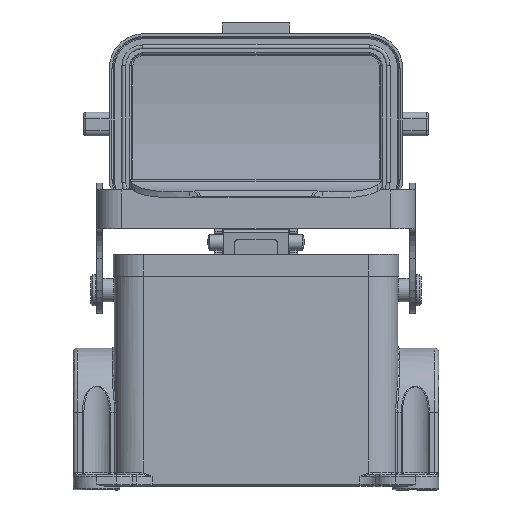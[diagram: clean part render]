
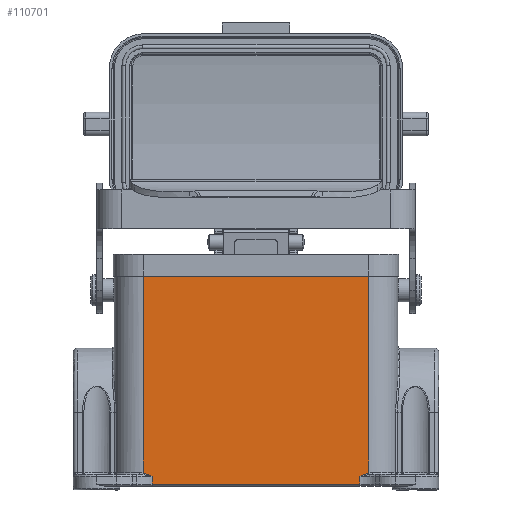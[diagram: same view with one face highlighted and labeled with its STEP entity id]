
A CAD part, front view. The second image highlights one B-rep face of the part: STEP entity #110701.
In plain terms, the highlighted planar face has unit normal (0, -1, 0).
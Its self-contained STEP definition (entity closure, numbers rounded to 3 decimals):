
#4212 = CARTESIAN_POINT ( 'NONE',  ( 26.737, -21.5, -29.3 ) ) ;
#4214 = CARTESIAN_POINT ( 'NONE',  ( -27.895, -21.5, -28.803 ) ) ;
#5683 = EDGE_CURVE ( 'NONE', #103085, #130829, #11401, .T. ) ;
#7994 = CARTESIAN_POINT ( 'NONE',  ( -28.465, -21.5, -28.595 ) ) ;
#8922 = CARTESIAN_POINT ( 'NONE',  ( -27.863, -21.5, -28.816 ) ) ;
#9386 = VERTEX_POINT ( 'NONE', #50116 ) ;
#9691 = DIRECTION ( 'NONE',  ( 0., 0., -1. ) ) ;
#11401 = B_SPLINE_CURVE_WITH_KNOTS ( 'NONE', 3,
 ( #4212, #100313, #15396, #26104, #15862, #120952, #100775, #56960, #133036, #14051, #48060, #88662, #133983, #82083, #112459, #38739, #38260, #80222, #103091 ),
 .UNSPECIFIED., .F., .F.,
 ( 4, 1, 1, 1, 1, 1, 2, 2, 1, 1, 2, 2, 4 ),
 ( 0., 0.25, 0.375, 0.438, 0.469, 0.484, 0.492, 0.5, 0.625, 0.688, 0.719, 0.75, 1. ),
 .UNSPECIFIED. ) ;
#12736 = EDGE_CURVE ( 'NONE', #51147, #103085, #67158, .T. ) ;
#14051 = CARTESIAN_POINT ( 'NONE',  ( 27.843, -21.5, -28.823 ) ) ;
#15396 = CARTESIAN_POINT ( 'NONE',  ( 27.255, -21.5, -29.068 ) ) ;
#15862 = CARTESIAN_POINT ( 'NONE',  ( 27.711, -21.5, -28.876 ) ) ;
#16578 = DIRECTION ( 'NONE',  ( 1., 0., 0. ) ) ;
#18606 = EDGE_CURVE ( 'NONE', #64068, #48528, #137124, .T. ) ;
#18718 = CARTESIAN_POINT ( 'NONE',  ( -28.027, -21.5, -28.751 ) ) ;
#19171 = CARTESIAN_POINT ( 'NONE',  ( -26.909, -21.5, -29.221 ) ) ;
#20081 = CARTESIAN_POINT ( 'NONE',  ( -27.643, -21.5, -28.904 ) ) ;
#20556 = CARTESIAN_POINT ( 'NONE',  ( -26.737, -21.5, -29.3 ) ) ;
#22336 = CARTESIAN_POINT ( 'NONE',  ( -36.5, -21.5, -31.8 ) ) ;
#23871 = CARTESIAN_POINT ( 'NONE',  ( 26.737, -21.5, -29.3 ) ) ;
#26104 = CARTESIAN_POINT ( 'NONE',  ( 27.566, -21.5, -28.936 ) ) ;
#28251 = ORIENTED_EDGE ( 'NONE', *, *, #18606, .T. ) ;
#31619 = CARTESIAN_POINT ( 'NONE',  ( 29., -21.5, 22.2 ) ) ;
#32129 = DIRECTION ( 'NONE',  ( 0., -1., 0. ) ) ;
#32577 = ORIENTED_EDGE ( 'NONE', *, *, #76624, .T. ) ;
#38260 = CARTESIAN_POINT ( 'NONE',  ( 28.609, -21.5, -28.547 ) ) ;
#38739 = CARTESIAN_POINT ( 'NONE',  ( 28.395, -21.5, -28.619 ) ) ;
#41080 = CARTESIAN_POINT ( 'NONE',  ( -27.344, -21.5, -29.031 ) ) ;
#41950 = EDGE_CURVE ( 'NONE', #102107, #100077, #71870, .T. ) ;
#44319 = CARTESIAN_POINT ( 'NONE',  ( -26.737, -21.5, -29.3 ) ) ;
#46243 = AXIS2_PLACEMENT_3D ( 'NONE', #22336, #32129, #75490 ) ;
#47145 = CARTESIAN_POINT ( 'NONE',  ( 29., -21.5, -28.441 ) ) ;
#48060 = CARTESIAN_POINT ( 'NONE',  ( 27.951, -21.5, -28.78 ) ) ;
#48528 = VERTEX_POINT ( 'NONE', #88340 ) ;
#50116 = CARTESIAN_POINT ( 'NONE',  ( -26.737, -21.5, -31.3 ) ) ;
#50465 = CARTESIAN_POINT ( 'NONE',  ( -28.513, -21.5, -28.58 ) ) ;
#51147 = VERTEX_POINT ( 'NONE', #75016 ) ;
#51376 = CARTESIAN_POINT ( 'NONE',  ( -27.093, -21.5, -29.139 ) ) ;
#51683 = CARTESIAN_POINT ( 'NONE',  ( -26.737, -21.5, -31.8 ) ) ;
#56960 = CARTESIAN_POINT ( 'NONE',  ( 27.83, -21.5, -28.828 ) ) ;
#57399 = CARTESIAN_POINT ( 'NONE',  ( -28.752, -21.5, -28.507 ) ) ;
#64068 = VERTEX_POINT ( 'NONE', #31619 ) ;
#67158 = LINE ( 'NONE', #103781, #103990 ) ;
#68095 = CARTESIAN_POINT ( 'NONE',  ( -28.196, -21.5, -28.687 ) ) ;
#70314 = VECTOR ( 'NONE', #78228, 1000. ) ;
#71870 = B_SPLINE_CURVE_WITH_KNOTS ( 'NONE', 3,
 ( #79754, #92871, #57399, #103631, #50465, #7994, #132131, #82608, #68095, #18718, #93329, #4214, #78843, #8922, #105004, #93802, #20081, #116232, #127000, #41080, #114852, #74172, #51376, #19171, #20556 ),
 .UNSPECIFIED., .F., .F.,
 ( 4, 1, 1, 2, 2, 1, 1, 1, 1, 2, 2, 1, 1, 1, 2, 2, 4 ),
 ( 0., 0.125, 0.187, 0.219, 0.25, 0.375, 0.437, 0.469, 0.484, 0.492, 0.5, 0.625, 0.687, 0.719, 0.734, 0.75, 1. ),
 .UNSPECIFIED. ) ;
#74172 = CARTESIAN_POINT ( 'NONE',  ( -27.303, -21.5, -29.049 ) ) ;
#74196 = ORIENTED_EDGE ( 'NONE', *, *, #106012, .T. ) ;
#75016 = CARTESIAN_POINT ( 'NONE',  ( 26.737, -21.5, -31.3 ) ) ;
#75490 = DIRECTION ( 'NONE',  ( 1., 0., 0. ) ) ;
#76454 = DIRECTION ( 'NONE',  ( 0., 0., 1. ) ) ;
#76624 = EDGE_CURVE ( 'NONE', #9386, #51147, #85311, .T. ) ;
#76894 = CARTESIAN_POINT ( 'NONE',  ( -29., -21.5, -31.8 ) ) ;
#77420 = ORIENTED_EDGE ( 'NONE', *, *, #41950, .T. ) ;
#78228 = DIRECTION ( 'NONE',  ( 0., 0., -1. ) ) ;
#78517 = ORIENTED_EDGE ( 'NONE', *, *, #12736, .T. ) ;
#78612 = LINE ( 'NONE', #76894, #70314 ) ;
#78843 = CARTESIAN_POINT ( 'NONE',  ( -27.875, -21.5, -28.81 ) ) ;
#79754 = CARTESIAN_POINT ( 'NONE',  ( -29., -21.5, -28.441 ) ) ;
#80222 = CARTESIAN_POINT ( 'NONE',  ( 28.803, -21.5, -28.49 ) ) ;
#80242 = VECTOR ( 'NONE', #94318, 1000. ) ;
#80489 = CARTESIAN_POINT ( 'NONE',  ( -36.5, -21.5, -31.3 ) ) ;
#81986 = ORIENTED_EDGE ( 'NONE', *, *, #137580, .T. ) ;
#82083 = CARTESIAN_POINT ( 'NONE',  ( 28.329, -21.5, -28.641 ) ) ;
#82608 = CARTESIAN_POINT ( 'NONE',  ( -28.332, -21.5, -28.64 ) ) ;
#85311 = LINE ( 'NONE', #80489, #90196 ) ;
#88340 = CARTESIAN_POINT ( 'NONE',  ( -29., -21.5, 22.2 ) ) ;
#88662 = CARTESIAN_POINT ( 'NONE',  ( 28.098, -21.5, -28.724 ) ) ;
#90196 = VECTOR ( 'NONE', #16578, 1000. ) ;
#92871 = CARTESIAN_POINT ( 'NONE',  ( -28.9, -21.5, -28.466 ) ) ;
#93329 = CARTESIAN_POINT ( 'NONE',  ( -27.939, -21.5, -28.785 ) ) ;
#93802 = CARTESIAN_POINT ( 'NONE',  ( -27.772, -21.5, -28.852 ) ) ;
#94318 = DIRECTION ( 'NONE',  ( -1., 0., 0. ) ) ;
#95626 = CARTESIAN_POINT ( 'NONE',  ( 29., -21.5, -31.8 ) ) ;
#96888 = EDGE_LOOP ( 'NONE', ( #81986, #28251, #74196, #77420, #122587, #32577, #78517, #112162 ) ) ;
#100077 = VERTEX_POINT ( 'NONE', #44319 ) ;
#100313 = CARTESIAN_POINT ( 'NONE',  ( 26.953, -21.5, -29.202 ) ) ;
#100775 = CARTESIAN_POINT ( 'NONE',  ( 27.816, -21.5, -28.834 ) ) ;
#102107 = VERTEX_POINT ( 'NONE', #134603 ) ;
#103085 = VERTEX_POINT ( 'NONE', #23871 ) ;
#103091 = CARTESIAN_POINT ( 'NONE',  ( 29., -21.5, -28.441 ) ) ;
#103631 = CARTESIAN_POINT ( 'NONE',  ( -28.584, -21.5, -28.557 ) ) ;
#103781 = CARTESIAN_POINT ( 'NONE',  ( 26.737, -21.5, -31.8 ) ) ;
#103990 = VECTOR ( 'NONE', #114530, 1000. ) ;
#104147 = CARTESIAN_POINT ( 'NONE',  ( -36.5, -21.5, 22.2 ) ) ;
#105004 = CARTESIAN_POINT ( 'NONE',  ( -27.855, -21.5, -28.819 ) ) ;
#106012 = EDGE_CURVE ( 'NONE', #48528, #102107, #78612, .T. ) ;
#107150 = LINE ( 'NONE', #51683, #132202 ) ;
#110701 = ADVANCED_FACE ( 'NONE', ( #119366 ), #125078, .T. ) ;
#112162 = ORIENTED_EDGE ( 'NONE', *, *, #5683, .T. ) ;
#112459 = CARTESIAN_POINT ( 'NONE',  ( 28.374, -21.5, -28.626 ) ) ;
#114530 = DIRECTION ( 'NONE',  ( 0., 0., 1. ) ) ;
#114852 = CARTESIAN_POINT ( 'NONE',  ( -27.318, -21.5, -29.043 ) ) ;
#116232 = CARTESIAN_POINT ( 'NONE',  ( -27.474, -21.5, -28.976 ) ) ;
#117409 = EDGE_CURVE ( 'NONE', #100077, #9386, #107150, .T. ) ;
#119366 = FACE_OUTER_BOUND ( 'NONE', #96888, .T. ) ;
#120952 = CARTESIAN_POINT ( 'NONE',  ( 27.781, -21.5, -28.848 ) ) ;
#122587 = ORIENTED_EDGE ( 'NONE', *, *, #117409, .T. ) ;
#125078 = PLANE ( 'NONE',  #46243 ) ;
#126503 = VECTOR ( 'NONE', #76454, 1000. ) ;
#127000 = CARTESIAN_POINT ( 'NONE',  ( -27.384, -21.5, -29.014 ) ) ;
#130829 = VERTEX_POINT ( 'NONE', #47145 ) ;
#132131 = CARTESIAN_POINT ( 'NONE',  ( -28.44, -21.5, -28.604 ) ) ;
#132202 = VECTOR ( 'NONE', #9691, 1000. ) ;
#133036 = CARTESIAN_POINT ( 'NONE',  ( 27.84, -21.5, -28.824 ) ) ;
#133983 = CARTESIAN_POINT ( 'NONE',  ( 28.261, -21.5, -28.665 ) ) ;
#134603 = CARTESIAN_POINT ( 'NONE',  ( -29., -21.5, -28.441 ) ) ;
#137124 = LINE ( 'NONE', #104147, #80242 ) ;
#137580 = EDGE_CURVE ( 'NONE', #130829, #64068, #138140, .T. ) ;
#138140 = LINE ( 'NONE', #95626, #126503 ) ;
